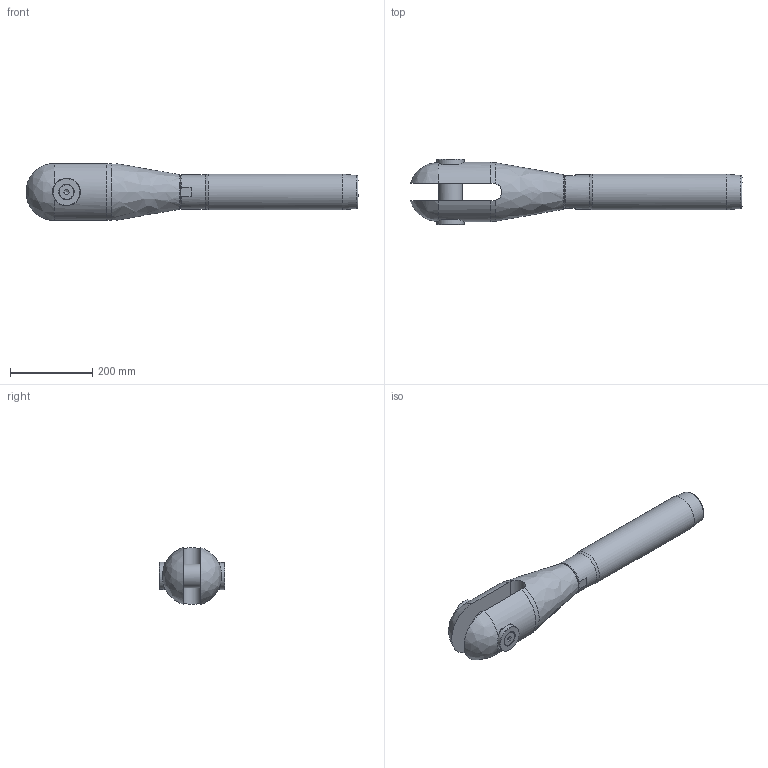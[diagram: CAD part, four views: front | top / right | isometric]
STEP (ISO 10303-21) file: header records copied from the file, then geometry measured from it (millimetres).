
FILE_DESCRIPTION(/* description */ (''),/* implementation_level */ '2;1');
FILE_NAME(/* name */ 'MAC-R 40_S355',/* time_stamp */ '2023-05-23T17:52:57+02:00',/* author */ (''),/* organization */ (''),/* preprocessor_version */ 'ST-DEVELOPER v16.5',/* originating_system */ 'Rhino 7.22',/* authorisation */ '');
FILE_SCHEMA (('CONFIG_CONTROL_DESIGN'));
Length unit declared in the file: millimetre
Products named in the file (1): Document
Bounding box: 805.77 x 158.36 x 137.74 mm (x, y, z)
Volume: 6161092.9 mm3; surface area: 450066.4 mm2
Topology: 7 solids, 7 shells, 87 faces, 245 edges, 171 vertices
Faces by surface type: plane 36, bspline 27, cylinder 24
Full cylindrical faces by diameter (mm): 17.294 x2, 20 x2, 21 x2, 35.4 x2, 58 x1, 59 x2, 66 x2, 68.752 x1, 72 x1, 83 x1, 87 x1
Entity records: 3531 total; most frequent: CARTESIAN_POINT 1975, ORIENTED_EDGE 480, EDGE_CURVE 240, VERTEX_POINT 171, EDGE_LOOP 99, B_SPLINE_CURVE_WITH_KNOTS 96, ADVANCED_FACE 87, FACE_OUTER_BOUND 87
